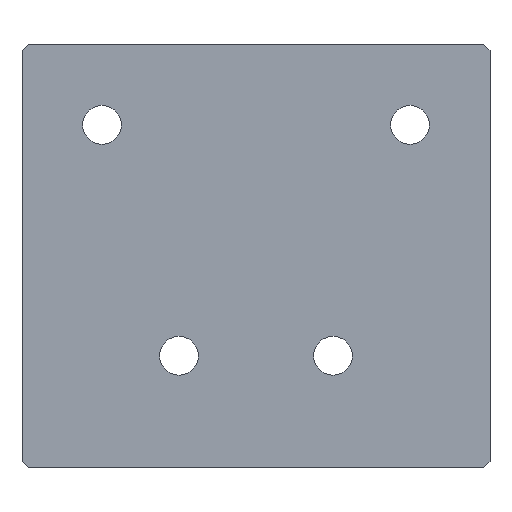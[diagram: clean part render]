
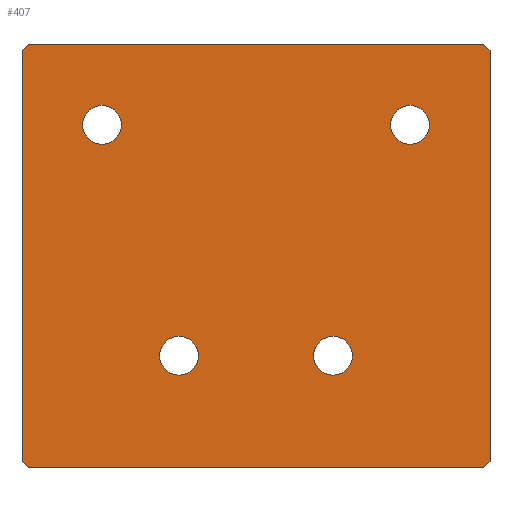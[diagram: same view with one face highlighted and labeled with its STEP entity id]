
A CAD part, front view. The second image highlights one B-rep face of the part: STEP entity #407.
In plain terms, the highlighted planar face has unit normal (0, -1, 0).
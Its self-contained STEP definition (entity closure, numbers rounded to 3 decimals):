
#1 = CIRCLE ( 'NONE', #2051, 3.15 ) ;
#23 = CARTESIAN_POINT ( 'NONE',  ( -25., 0., 4.9 ) ) ;
#121 = CARTESIAN_POINT ( 'NONE',  ( 37., 0., -50.8 ) ) ;
#144 = EDGE_LOOP ( 'NONE', ( #1904, #1898, #1893, #1888, #1882, #1878, #1869, #1867 ) ) ;
#161 = CARTESIAN_POINT ( 'NONE',  ( 38., 0., -50.8 ) ) ;
#167 = CARTESIAN_POINT ( 'NONE',  ( -38., 0., -49.8 ) ) ;
#191 = CARTESIAN_POINT ( 'NONE',  ( -37., 0., 18. ) ) ;
#192 = CIRCLE ( 'NONE', #2127, 3.15 ) ;
#196 = DIRECTION ( 'NONE',  ( -1., 0., 0. ) ) ;
#217 = CARTESIAN_POINT ( 'NONE',  ( -21.85, 0., 4.9 ) ) ;
#219 = EDGE_CURVE ( 'NONE', #1309, #2355, #659, .T. ) ;
#268 = DIRECTION ( 'NONE',  ( -1., 0., 0. ) ) ;
#292 = EDGE_CURVE ( 'NONE', #1705, #1346, #597, .T. ) ;
#303 = EDGE_CURVE ( 'NONE', #1350, #828, #576, .T. ) ;
#327 = CIRCLE ( 'NONE', #2178, 3.15 ) ;
#329 = CARTESIAN_POINT ( 'NONE',  ( 38., 0., -49.8 ) ) ;
#337 = LINE ( 'NONE', #191, #1254 ) ;
#346 = DIRECTION ( 'NONE',  ( -1., 0., 0. ) ) ;
#355 = CARTESIAN_POINT ( 'NONE',  ( -37., 0., 18. ) ) ;
#359 = CARTESIAN_POINT ( 'NONE',  ( 21.85, 0., 4.9 ) ) ;
#379 = DIRECTION ( 'NONE',  ( -0.707, 0., -0.707 ) ) ;
#399 = CIRCLE ( 'NONE', #2251, 3.15 ) ;
#407 = ADVANCED_FACE ( 'NONE', ( #494, #484, #490, #488, #483 ), #1733, .F. ) ;
#417 = CARTESIAN_POINT ( 'NONE',  ( -37., 0., -50.8 ) ) ;
#443 = EDGE_CURVE ( 'NONE', #1309, #1912, #473, .T. ) ;
#455 = LINE ( 'NONE', #161, #481 ) ;
#456 = EDGE_CURVE ( 'NONE', #1851, #1912, #455, .T. ) ;
#460 = VECTOR ( 'NONE', #1177, 1000. ) ;
#473 = LINE ( 'NONE', #848, #460 ) ;
#481 = VECTOR ( 'NONE', #346, 1000. ) ;
#483 = FACE_OUTER_BOUND ( 'NONE', #144, .T. ) ;
#484 = FACE_BOUND ( 'NONE', #603, .T. ) ;
#488 = FACE_BOUND ( 'NONE', #1508, .T. ) ;
#490 = FACE_BOUND ( 'NONE', #1507, .T. ) ;
#494 = FACE_BOUND ( 'NONE', #1840, .T. ) ;
#501 = CARTESIAN_POINT ( 'NONE',  ( -15.65, 0., -32.6 ) ) ;
#508 = EDGE_CURVE ( 'NONE', #1436, #2285, #399, .T. ) ;
#576 = LINE ( 'NONE', #2077, #587 ) ;
#580 = VECTOR ( 'NONE', #1852, 1000. ) ;
#587 = VECTOR ( 'NONE', #957, 1000. ) ;
#590 = DIRECTION ( 'NONE',  ( -1., 0., 0. ) ) ;
#592 = EDGE_CURVE ( 'NONE', #2153, #2233, #327, .T. ) ;
#597 = LINE ( 'NONE', #1921, #580 ) ;
#603 = EDGE_LOOP ( 'NONE', ( #1945, #1940 ) ) ;
#659 = LINE ( 'NONE', #984, #671 ) ;
#660 = DIRECTION ( 'NONE',  ( 0., 0., 1. ) ) ;
#662 = CARTESIAN_POINT ( 'NONE',  ( -28.15, 0., 4.9 ) ) ;
#671 = VECTOR ( 'NONE', #1687, 1000. ) ;
#721 = CARTESIAN_POINT ( 'NONE',  ( 37., 0., -50.8 ) ) ;
#736 = DIRECTION ( 'NONE',  ( 0., 1., 0. ) ) ;
#758 = EDGE_CURVE ( 'NONE', #2233, #2153, #192, .T. ) ;
#765 = CARTESIAN_POINT ( 'NONE',  ( 25., 0., 4.9 ) ) ;
#828 = VERTEX_POINT ( 'NONE', #1075 ) ;
#841 = DIRECTION ( 'NONE',  ( 0., 1., 0. ) ) ;
#844 = DIRECTION ( 'NONE',  ( 0.707, 0., 0.707 ) ) ;
#848 = CARTESIAN_POINT ( 'NONE',  ( -37., 0., -50.8 ) ) ;
#957 = DIRECTION ( 'NONE',  ( 1., 0., 0. ) ) ;
#984 = CARTESIAN_POINT ( 'NONE',  ( -38., 0., 18. ) ) ;
#987 = CARTESIAN_POINT ( 'NONE',  ( -9.35, 0., -32.6 ) ) ;
#989 = EDGE_CURVE ( 'NONE', #2285, #1436, #1, .T. ) ;
#1025 = EDGE_CURVE ( 'NONE', #1350, #2355, #337, .T. ) ;
#1071 = EDGE_CURVE ( 'NONE', #1851, #1346, #2398, .T. ) ;
#1075 = CARTESIAN_POINT ( 'NONE',  ( 37., 0., 18. ) ) ;
#1096 = CARTESIAN_POINT ( 'NONE',  ( 38., 0., 17. ) ) ;
#1119 = EDGE_CURVE ( 'NONE', #2147, #2191, #2296, .T. ) ;
#1124 = EDGE_CURVE ( 'NONE', #1705, #828, #2327, .T. ) ;
#1127 = CARTESIAN_POINT ( 'NONE',  ( 9.35, 0., -32.6 ) ) ;
#1158 = CARTESIAN_POINT ( 'NONE',  ( 28.15, 0., 4.9 ) ) ;
#1166 = EDGE_CURVE ( 'NONE', #1909, #2083, #2235, .T. ) ;
#1176 = EDGE_CURVE ( 'NONE', #2083, #1909, #2230, .T. ) ;
#1177 = DIRECTION ( 'NONE',  ( 0.707, 0., -0.707 ) ) ;
#1184 = DIRECTION ( 'NONE',  ( -0.707, 0., 0.707 ) ) ;
#1197 = DIRECTION ( 'NONE',  ( 0., 1., 0. ) ) ;
#1252 = CARTESIAN_POINT ( 'NONE',  ( 12.5, 0., -32.6 ) ) ;
#1254 = VECTOR ( 'NONE', #379, 1000. ) ;
#1263 = CARTESIAN_POINT ( 'NONE',  ( -25., 0., 4.9 ) ) ;
#1271 = DIRECTION ( 'NONE',  ( 0., 1., 0. ) ) ;
#1278 = CARTESIAN_POINT ( 'NONE',  ( 15.65, 0., -32.6 ) ) ;
#1280 = CARTESIAN_POINT ( 'NONE',  ( -38., 0., 17. ) ) ;
#1287 = CARTESIAN_POINT ( 'NONE',  ( 12.5, 0., -32.6 ) ) ;
#1302 = DIRECTION ( 'NONE',  ( -1., 0., 0. ) ) ;
#1308 = DIRECTION ( 'NONE',  ( 0., 1., 0. ) ) ;
#1309 = VERTEX_POINT ( 'NONE', #167 ) ;
#1346 = VERTEX_POINT ( 'NONE', #329 ) ;
#1350 = VERTEX_POINT ( 'NONE', #355 ) ;
#1360 = DIRECTION ( 'NONE',  ( -1., 0., 0. ) ) ;
#1375 = DIRECTION ( 'NONE',  ( 0., 1., 0. ) ) ;
#1436 = VERTEX_POINT ( 'NONE', #662 ) ;
#1507 = EDGE_LOOP ( 'NONE', ( #1919, #1917 ) ) ;
#1508 = EDGE_LOOP ( 'NONE', ( #1914, #1911 ) ) ;
#1556 = CARTESIAN_POINT ( 'NONE',  ( 0., 0., 0. ) ) ;
#1687 = DIRECTION ( 'NONE',  ( 0., 0., 1. ) ) ;
#1705 = VERTEX_POINT ( 'NONE', #1717 ) ;
#1717 = CARTESIAN_POINT ( 'NONE',  ( 38., 0., 17. ) ) ;
#1733 = PLANE ( 'NONE',  #2290 ) ;
#1756 = AXIS2_PLACEMENT_3D ( 'NONE', #1287, #1308, #1302 ) ;
#1816 = CARTESIAN_POINT ( 'NONE',  ( 25., 0., 4.9 ) ) ;
#1840 = EDGE_LOOP ( 'NONE', ( #1955, #1947 ) ) ;
#1851 = VERTEX_POINT ( 'NONE', #121 ) ;
#1852 = DIRECTION ( 'NONE',  ( 0., 0., -1. ) ) ;
#1867 = ORIENTED_EDGE ( 'NONE', *, *, #1124, .T. ) ;
#1869 = ORIENTED_EDGE ( 'NONE', *, *, #292, .F. ) ;
#1878 = ORIENTED_EDGE ( 'NONE', *, *, #1071, .T. ) ;
#1882 = ORIENTED_EDGE ( 'NONE', *, *, #456, .F. ) ;
#1888 = ORIENTED_EDGE ( 'NONE', *, *, #443, .T. ) ;
#1893 = ORIENTED_EDGE ( 'NONE', *, *, #219, .F. ) ;
#1898 = ORIENTED_EDGE ( 'NONE', *, *, #1025, .T. ) ;
#1904 = ORIENTED_EDGE ( 'NONE', *, *, #303, .F. ) ;
#1909 = VERTEX_POINT ( 'NONE', #501 ) ;
#1911 = ORIENTED_EDGE ( 'NONE', *, *, #508, .T. ) ;
#1912 = VERTEX_POINT ( 'NONE', #417 ) ;
#1914 = ORIENTED_EDGE ( 'NONE', *, *, #989, .T. ) ;
#1917 = ORIENTED_EDGE ( 'NONE', *, *, #758, .T. ) ;
#1919 = ORIENTED_EDGE ( 'NONE', *, *, #592, .T. ) ;
#1921 = CARTESIAN_POINT ( 'NONE',  ( 38., 0., 18. ) ) ;
#1930 = AXIS2_PLACEMENT_3D ( 'NONE', #2176, #2187, #2204 ) ;
#1936 = CIRCLE ( 'NONE', #1756, 3.15 ) ;
#1940 = ORIENTED_EDGE ( 'NONE', *, *, #1166, .T. ) ;
#1944 = AXIS2_PLACEMENT_3D ( 'NONE', #1983, #1993, #2006 ) ;
#1945 = ORIENTED_EDGE ( 'NONE', *, *, #1176, .T. ) ;
#1947 = ORIENTED_EDGE ( 'NONE', *, *, #1119, .T. ) ;
#1955 = ORIENTED_EDGE ( 'NONE', *, *, #2188, .T. ) ;
#1968 = AXIS2_PLACEMENT_3D ( 'NONE', #1252, #1271, #1360 ) ;
#1983 = CARTESIAN_POINT ( 'NONE',  ( -12.5, 0., -32.6 ) ) ;
#1993 = DIRECTION ( 'NONE',  ( 0., 1., 0. ) ) ;
#2006 = DIRECTION ( 'NONE',  ( -1., 0., 0. ) ) ;
#2018 = DIRECTION ( 'NONE',  ( -1., 0., 0. ) ) ;
#2051 = AXIS2_PLACEMENT_3D ( 'NONE', #1263, #1375, #268 ) ;
#2052 = DIRECTION ( 'NONE',  ( 0., 1., 0. ) ) ;
#2077 = CARTESIAN_POINT ( 'NONE',  ( -38., 0., 18. ) ) ;
#2083 = VERTEX_POINT ( 'NONE', #987 ) ;
#2127 = AXIS2_PLACEMENT_3D ( 'NONE', #765, #2052, #590 ) ;
#2147 = VERTEX_POINT ( 'NONE', #1127 ) ;
#2153 = VERTEX_POINT ( 'NONE', #1158 ) ;
#2176 = CARTESIAN_POINT ( 'NONE',  ( -12.5, 0., -32.6 ) ) ;
#2178 = AXIS2_PLACEMENT_3D ( 'NONE', #1816, #736, #2018 ) ;
#2187 = DIRECTION ( 'NONE',  ( 0., 1., 0. ) ) ;
#2188 = EDGE_CURVE ( 'NONE', #2191, #2147, #1936, .T. ) ;
#2191 = VERTEX_POINT ( 'NONE', #1278 ) ;
#2204 = DIRECTION ( 'NONE',  ( -1., 0., 0. ) ) ;
#2230 = CIRCLE ( 'NONE', #1930, 3.15 ) ;
#2233 = VERTEX_POINT ( 'NONE', #359 ) ;
#2235 = CIRCLE ( 'NONE', #1944, 3.15 ) ;
#2251 = AXIS2_PLACEMENT_3D ( 'NONE', #23, #1197, #196 ) ;
#2285 = VERTEX_POINT ( 'NONE', #217 ) ;
#2290 = AXIS2_PLACEMENT_3D ( 'NONE', #1556, #841, #660 ) ;
#2292 = VECTOR ( 'NONE', #1184, 1000. ) ;
#2296 = CIRCLE ( 'NONE', #1968, 3.15 ) ;
#2327 = LINE ( 'NONE', #1096, #2292 ) ;
#2355 = VERTEX_POINT ( 'NONE', #1280 ) ;
#2397 = VECTOR ( 'NONE', #844, 1000. ) ;
#2398 = LINE ( 'NONE', #721, #2397 ) ;
